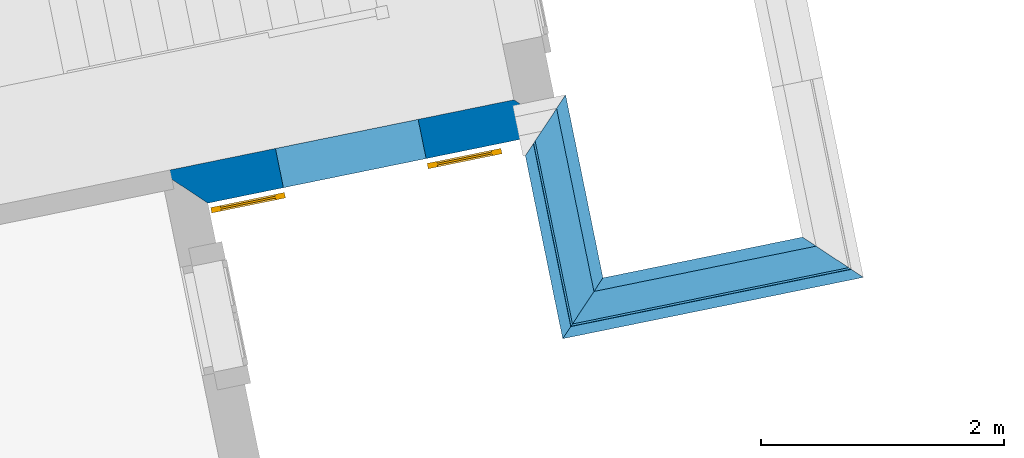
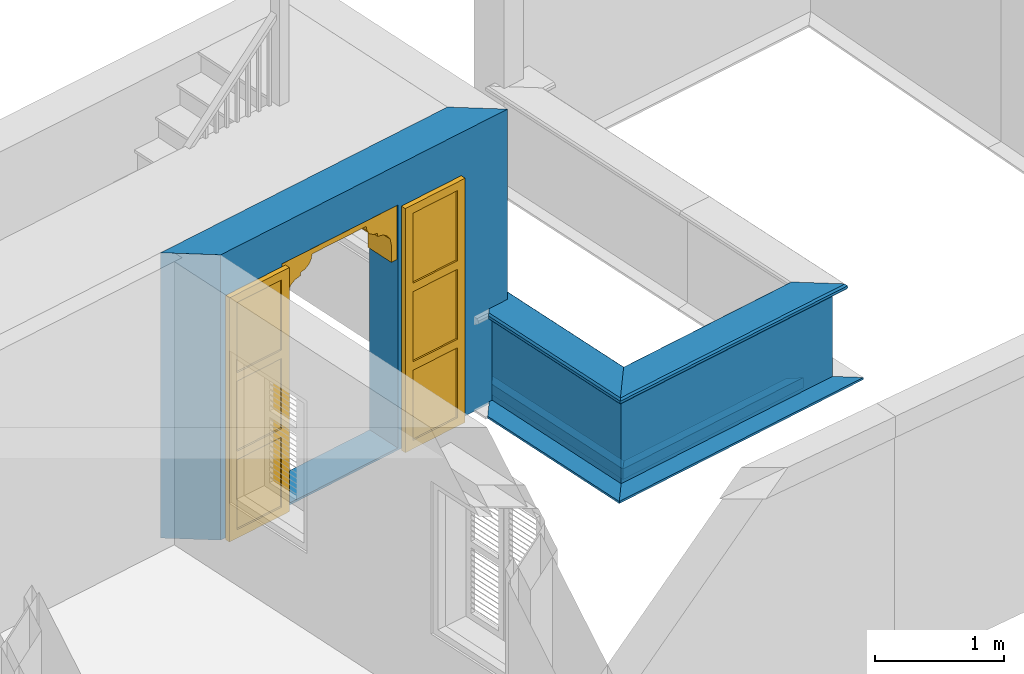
# One storey, part 5 of 7: 7 walls, 1 door, 1 opening.
"""IFC4 building model written with IfcOpenShell, lengths in metres."""

from ifc_helpers import new_model, si_unit, frame, origin, origin_with_axes, place, context, subcontext, project, spatial, polyline, outline, extrude, clip, halfspace, faceted_brep, source, transform, mapped, material, layer, layer_set, layer_usage, material_profile, profile_set, profile_usage, type_object, type_shapes, element, fill, save


model = new_model("IFC4")

# Units and contexts
model_context = context("Model", 3, world=origin_with_axes())
body_context = subcontext(model_context, "Body", "Model", "MODEL_VIEW")
ifc_project = project(units=[si_unit("PLANEANGLEUNIT", "RADIAN"), si_unit("MASSUNIT", "GRAM", prefix="KILO"), si_unit("FORCEUNIT", "NEWTON", prefix="KILO"), si_unit("LENGTHUNIT", "METRE"), si_unit("AREAUNIT", "SQUARE_METRE"), si_unit("VOLUMEUNIT", "CUBIC_METRE")], contexts=[model_context, model_context])

# Site, building, storey
site_placement = place(None, origin_with_axes())
site = spatial("IfcSite", under=ifc_project, at=site_placement, Name="Site plot-7", CompositionType="ELEMENT")
building_placement = place(None, origin_with_axes())
building = spatial("IfcBuilding", under=site, at=building_placement, Name="Building plot-7", CompositionType="ELEMENT")
storey_placement = place(None, frame((0.0, 0.0, 3.0), z_axis=(0.0, 0.0, 1.0), x_axis=(1.0, 0.0, 0.0)))
storey = spatial("IfcBuildingStorey", under=building, at=storey_placement, Name="plot-7 1", CompositionType="ELEMENT", Elevation=3.0)

# Wall, opening, door
ifc_material = material(Name="Masonry")
ifc_layer = layer(ifc_material, 0.33, ventilated=False)
ifc_layer_set = layer_set([ifc_layer], Name="exterior_0.08_0.25")
ifc_layer_usage = layer_usage(ifc_layer_set, "AXIS2", "POSITIVE", -0.25)
wall_type_1 = type_object("IfcWallType", Name="exterior_0.08_0.25", PredefinedType="SOLIDWALL", material=ifc_layer_set)
wall_1_placement = place(storey_placement, frame((-9.09509693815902, 9.59083448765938, 0.0), z_axis=(0.0, 0.0, 1.0), x_axis=(0.979807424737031, 0.199943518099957, 0.0)))
wall_1 = element("IfcWall", 1, at=wall_1_placement, inside=storey, type_object=wall_type_1, material=ifc_layer_usage, Name="exterior", context=body_context, shape_type="SweptSolid", body=[
    extrude(outline(polyline([(-0.0799999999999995, 0.0799999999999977), (0.25, -0.250000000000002), (3.22066143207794, -0.250000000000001), (2.89066143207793, 0.0799999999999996), (-0.0799999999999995, 0.0799999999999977)])), origin_with_axes(), (0.0, 0.0, 1.0), 2.7),
])
opening_placement = place(wall_1_placement, frame((0.885330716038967, 0.0, 0.02)))
opening = element("IfcOpeningElement", 2, at=opening_placement, cuts=wall_1, Name="My Opening", ObjectType="Opening", context=body_context, shape_type="SweptSolid", body=[
    extrude(outline(polyline([(0.0, -0.27), (1.2, -0.269999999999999), (1.2, 1.1), (2.22044604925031e-15, 1.1), (0.0, -0.27)])), origin_with_axes(), (0.0, 0.0, 1.0), 2.3),
])
door_type = type_object("IfcDoorType", Name="arch-1200x2300", OperationType="SINGLE_SWING_LEFT", PredefinedType="NOTDEFINED")
shared_shape = source(origin(), body_context, "Body", "Brep", [
    faceted_brep([(-0.08, -0.02, 0.08), (-0.08, -0.02, 0.0), (-0.54, -0.02, 0.0), (-0.54, -0.02, 0.08), (-0.62, -0.02, 0.0), (-0.62, -0.02, 0.08), (-0.54, -0.035, 0.08), (-0.08, -0.035, 0.08), (0.0, -0.02, 0.08), (0.0, -0.02, 0.0), (-0.08, -0.066, 0.0), (-0.54, -0.066, 0.0), (-0.62, -0.066, 0.0), (-0.62, -0.066, 0.08), (-0.54, -0.02, 0.743333), (-0.62, -0.02, 0.743333), (-0.54, -0.035, 0.743333), (-0.08, -0.035, 0.743333), (-0.08, -0.02, 0.743333), (0.0, -0.02, 0.743333), (0.0, -0.066, 0.08), (0.0, -0.066, 0.0), (-0.54, -0.066, 0.08), (-0.08, -0.066, 0.08), (-0.62, -0.066, 0.743333), (-0.54, -0.02, 0.823333), (-0.62, -0.02, 0.823333), (0.0, -0.066, 0.743333), (0.0, -0.02, 0.823333), (-0.08, -0.02, 0.823333), (-0.08, -0.051, 0.08), (-0.54, -0.051, 0.08), (-0.54, -0.066, 0.743333), (-0.62, -0.066, 0.823333), (-0.54, -0.02, 1.486667), (-0.62, -0.02, 1.486667), (0.0, -0.066, 0.823333), (-0.08, -0.066, 0.743333), (0.0, -0.02, 1.486667), (-0.08, -0.02, 1.486667), (-0.08, -0.051, 0.743333), (-0.54, -0.051, 0.743333), (-0.54, -0.066, 0.823333), (-0.62, -0.066, 1.486667), (-0.54, -0.035, 0.823333), (-0.08, -0.035, 0.823333), (-0.54, -0.035, 1.486667), (-0.54, -0.02, 1.566667), (-0.62, -0.02, 1.566667), (0.0, -0.066, 1.486667), (-0.08, -0.066, 0.823333), (-0.08, -0.035, 1.486667), (0.0, -0.02, 1.566667), (-0.08, -0.02, 1.566667), (-0.54, -0.066, 1.486667), (-0.62, -0.066, 1.566667), (-0.54, -0.02, 2.23), (-0.62, -0.02, 2.23), (0.0, -0.066, 1.566667), (-0.08, -0.066, 1.486667), (0.0, -0.02, 2.23), (-0.08, -0.02, 2.23), (-0.08, -0.051, 0.823333), (-0.54, -0.051, 0.823333), (-0.54, -0.051, 1.486667), (-0.54, -0.066, 1.566667), (-0.62, -0.066, 2.23), (-0.54, -0.035, 1.566667), (-0.08, -0.035, 1.566667), (-0.54, -0.035, 2.23), (-0.54, -0.02, 2.31), (-0.62, -0.02, 2.31), (0.0, -0.066, 2.23), (-0.08, -0.066, 1.566667), (-0.08, -0.051, 1.486667), (-0.08, -0.035, 2.23), (0.0, -0.02, 2.31), (-0.08, -0.02, 2.31), (-0.54, -0.066, 2.23), (-0.62, -0.066, 2.31), (-0.54, -0.066, 2.31), (0.0, -0.066, 2.31), (-0.08, -0.066, 2.23), (-0.08, -0.066, 2.31), (-0.08, -0.051, 1.566667), (-0.54, -0.051, 1.566667), (-0.54, -0.051, 2.23), (-0.08, -0.051, 2.23), (1.74, -0.02, 0.08), (1.74, -0.02, 0.0), (1.28, -0.02, 0.0), (1.28, -0.02, 0.08), (1.82, -0.02, 0.08), (1.82, -0.02, 0.0), (1.28, -0.035, 0.08), (1.74, -0.035, 0.08), (1.2, -0.02, 0.0), (1.2, -0.02, 0.08), (1.74, -0.066, 0.0), (1.28, -0.066, 0.0), (1.82, -0.066, 0.08), (1.82, -0.066, 0.0), (1.82, -0.02, 0.743333), (1.74, -0.02, 0.743333), (1.74, -0.035, 0.743333), (1.28, -0.035, 0.743333), (1.28, -0.02, 0.743333), (1.2, -0.02, 0.743333), (1.2, -0.066, 0.0), (1.2, -0.066, 0.08), (1.28, -0.066, 0.08), (1.74, -0.066, 0.08), (1.82, -0.066, 0.743333), (1.82, -0.02, 0.823333), (1.74, -0.02, 0.823333), (1.2, -0.066, 0.743333), (1.28, -0.02, 0.823333), (1.2, -0.02, 0.823333), (1.74, -0.051, 0.08), (1.28, -0.051, 0.08), (1.74, -0.066, 0.743333), (1.82, -0.066, 0.823333), (1.82, -0.02, 1.486667), (1.74, -0.02, 1.486667), (1.2, -0.066, 0.823333), (1.28, -0.066, 0.743333), (1.28, -0.02, 1.486667), (1.2, -0.02, 1.486667), (1.28, -0.051, 0.743333), (1.74, -0.051, 0.743333), (1.74, -0.066, 0.823333), (1.82, -0.066, 1.486667), (1.28, -0.035, 0.823333), (1.74, -0.035, 0.823333), (1.74, -0.035, 1.486667), (1.82, -0.02, 1.566667), (1.74, -0.02, 1.566667), (1.2, -0.066, 1.486667), (1.28, -0.066, 0.823333), (1.28, -0.035, 1.486667), (1.28, -0.02, 1.566667), (1.2, -0.02, 1.566667), (1.74, -0.066, 1.486667), (1.82, -0.066, 1.566667), (1.82, -0.02, 2.23), (1.74, -0.02, 2.23), (1.2, -0.066, 1.566667), (1.28, -0.066, 1.486667), (1.28, -0.02, 2.23), (1.2, -0.02, 2.23), (1.74, -0.051, 0.823333), (1.28, -0.051, 0.823333), (1.74, -0.051, 1.486667), (1.74, -0.066, 1.566667), (1.82, -0.066, 2.23), (1.28, -0.035, 1.566667), (1.74, -0.035, 1.566667), (1.74, -0.035, 2.23), (1.82, -0.02, 2.31), (1.74, -0.02, 2.31), (1.2, -0.066, 2.23), (1.28, -0.066, 1.566667), (1.28, -0.051, 1.486667), (1.28, -0.035, 2.23), (1.28, -0.02, 2.31), (1.2, -0.02, 2.31), (1.74, -0.066, 2.23), (1.82, -0.066, 2.31), (1.74, -0.066, 2.31), (1.2, -0.066, 2.31), (1.28, -0.066, 2.23), (1.28, -0.066, 2.31), (1.74, -0.051, 1.566667), (1.28, -0.051, 1.566667), (1.74, -0.051, 2.23), (1.28, -0.051, 2.23), (1.2, 0.03, 1.78), (1.2, 0.03, 1.95), (1.14, 0.03, 1.95), (1.14, 0.03, 1.78), (1.14, 0.3, 1.95), (1.14, 0.3, 1.78), (1.2, 0.03, 2.12), (1.129, 0.03, 2.004), (1.2, 0.3, 1.78), (1.2, 0.3, 1.95), (1.129, 0.3, 2.004), (1.099, 0.03, 2.049), (1.2, 0.3, 2.12), (1.099, 0.3, 2.049), (1.054, 0.03, 2.079), (1.2, 0.3, 2.29), (1.2, 0.03, 2.29), (1.054, 0.3, 2.079), (1.0, 0.03, 2.09), (1.0, 0.03, 2.12), (0.954, 0.03, 2.129), (0.88, 0.3, 2.29), (0.88, 0.03, 2.29), (1.0, 0.3, 2.12), (0.954, 0.3, 2.129), (1.0, 0.3, 2.09), (0.915, 0.03, 2.155), (0.889, 0.3, 2.194), (0.88, 0.3, 2.24), (0.88, 0.03, 2.24), (0.889, 0.03, 2.194), (0.915, 0.3, 2.155), (0.06, 0.03, 1.78), (0.06, 0.03, 1.95), (0.0, 0.03, 1.95), (0.0, 0.03, 1.78), (0.06, 0.3, 1.78), (0.06, 0.3, 1.95), (0.071, 0.03, 2.004), (0.0, 0.03, 2.12), (0.0, 0.3, 1.95), (0.0, 0.3, 1.78), (0.071, 0.3, 2.004), (0.101, 0.03, 2.049), (0.0, 0.3, 2.12), (0.101, 0.3, 2.049), (0.146, 0.03, 2.079), (0.0, 0.03, 2.29), (0.0, 0.3, 2.29), (0.146, 0.3, 2.079), (0.2, 0.03, 2.12), (0.2, 0.03, 2.09), (0.246, 0.03, 2.129), (0.32, 0.03, 2.29), (0.32, 0.3, 2.29), (0.246, 0.3, 2.129), (0.2, 0.3, 2.12), (0.2, 0.3, 2.09), (0.285, 0.03, 2.155), (0.32, 0.3, 2.24), (0.311, 0.3, 2.194), (0.311, 0.03, 2.194), (0.32, 0.03, 2.24), (0.285, 0.3, 2.155)], [[[0, 1, 2, 3]], [[4, 5, 3, 2]], [[0, 3, 6, 7]], [[1, 0, 8, 9]], [[2, 1, 10, 11]], [[5, 4, 12, 13]], [[14, 3, 5, 15]], [[4, 2, 11, 12]], [[3, 14, 16, 6]], [[6, 16, 17, 7]], [[18, 0, 7, 17]], [[0, 18, 19, 8]], [[9, 8, 20, 21]], [[1, 9, 21, 10]], [[22, 11, 10, 23]], [[13, 12, 11, 22]], [[15, 5, 13, 24]], [[25, 14, 15, 26]], [[14, 18, 17, 16]], [[8, 19, 27, 20]], [[28, 19, 18, 29]], [[23, 10, 21, 20]], [[22, 23, 30, 31]], [[22, 32, 24, 13]], [[26, 15, 24, 33]], [[29, 18, 14, 25]], [[34, 25, 26, 35]], [[19, 28, 36, 27]], [[20, 27, 37, 23]], [[38, 28, 29, 39]], [[23, 37, 40, 30]], [[41, 31, 30, 40]], [[32, 22, 31, 41]], [[32, 42, 33, 24]], [[35, 26, 33, 43]], [[29, 25, 44, 45]], [[25, 34, 46, 44]], [[47, 34, 35, 48]], [[28, 38, 49, 36]], [[27, 36, 50, 37]], [[39, 29, 45, 51]], [[52, 38, 39, 53]], [[37, 32, 41, 40]], [[37, 50, 42, 32]], [[42, 54, 43, 33]], [[48, 35, 43, 55]], [[44, 46, 51, 45]], [[34, 39, 51, 46]], [[34, 47, 53, 39]], [[56, 47, 48, 57]], [[38, 52, 58, 49]], [[36, 49, 59, 50]], [[60, 52, 53, 61]], [[42, 50, 62, 63]], [[54, 42, 63, 64]], [[54, 65, 55, 43]], [[57, 48, 55, 66]], [[53, 47, 67, 68]], [[47, 56, 69, 67]], [[70, 56, 57, 71]], [[52, 60, 72, 58]], [[49, 58, 73, 59]], [[50, 59, 74, 62]], [[61, 53, 68, 75]], [[76, 60, 61, 77]], [[64, 63, 62, 74]], [[59, 54, 64, 74]], [[65, 54, 59, 73]], [[65, 78, 66, 55]], [[71, 57, 66, 79]], [[67, 69, 75, 68]], [[56, 61, 75, 69]], [[77, 61, 56, 70]], [[70, 71, 79, 80]], [[60, 76, 81, 72]], [[58, 72, 82, 73]], [[76, 77, 83, 81]], [[65, 73, 84, 85]], [[78, 65, 85, 86]], [[78, 80, 79, 66]], [[77, 70, 80, 83]], [[72, 81, 83, 82]], [[73, 82, 87, 84]], [[86, 85, 84, 87]], [[82, 78, 86, 87]], [[82, 83, 80, 78]], [[88, 89, 90, 91]], [[89, 88, 92, 93]], [[94, 95, 88, 91]], [[96, 97, 91, 90]], [[98, 99, 90, 89]], [[100, 101, 93, 92]], [[102, 92, 88, 103]], [[101, 98, 89, 93]], [[95, 104, 103, 88]], [[94, 105, 104, 95]], [[105, 94, 91, 106]], [[97, 107, 106, 91]], [[108, 109, 97, 96]], [[99, 108, 96, 90]], [[110, 99, 98, 111]], [[111, 98, 101, 100]], [[112, 100, 92, 102]], [[113, 102, 103, 114]], [[104, 105, 106, 103]], [[109, 115, 107, 97]], [[116, 106, 107, 117]], [[109, 108, 99, 110]], [[118, 119, 110, 111]], [[100, 112, 120, 111]], [[121, 112, 102, 113]], [[114, 103, 106, 116]], [[122, 113, 114, 123]], [[115, 124, 117, 107]], [[110, 125, 115, 109]], [[126, 116, 117, 127]], [[119, 128, 125, 110]], [[128, 119, 118, 129]], [[129, 118, 111, 120]], [[112, 121, 130, 120]], [[131, 121, 113, 122]], [[132, 133, 114, 116]], [[133, 134, 123, 114]], [[135, 122, 123, 136]], [[124, 137, 127, 117]], [[125, 138, 124, 115]], [[139, 132, 116, 126]], [[140, 126, 127, 141]], [[128, 129, 120, 125]], [[120, 130, 138, 125]], [[121, 131, 142, 130]], [[143, 131, 122, 135]], [[132, 139, 134, 133]], [[134, 139, 126, 123]], [[126, 140, 136, 123]], [[144, 135, 136, 145]], [[137, 146, 141, 127]], [[138, 147, 137, 124]], [[148, 140, 141, 149]], [[150, 151, 138, 130]], [[152, 150, 130, 142]], [[131, 143, 153, 142]], [[154, 143, 135, 144]], [[155, 156, 136, 140]], [[156, 157, 145, 136]], [[158, 144, 145, 159]], [[146, 160, 149, 141]], [[147, 161, 146, 137]], [[151, 162, 147, 138]], [[163, 155, 140, 148]], [[164, 148, 149, 165]], [[162, 151, 150, 152]], [[162, 152, 142, 147]], [[161, 147, 142, 153]], [[143, 154, 166, 153]], [[167, 154, 144, 158]], [[155, 163, 157, 156]], [[157, 163, 148, 145]], [[159, 145, 148, 164]], [[168, 167, 158, 159]], [[160, 169, 165, 149]], [[161, 170, 160, 146]], [[169, 171, 164, 165]], [[172, 173, 161, 153]], [[174, 172, 153, 166]], [[154, 167, 168, 166]], [[171, 168, 159, 164]], [[170, 171, 169, 160]], [[173, 175, 170, 161]], [[175, 173, 172, 174]], [[175, 174, 166, 170]], [[166, 168, 171, 170]], [[176, 177, 178, 179]], [[180, 181, 179, 178]], [[177, 182, 183, 178]], [[177, 176, 184, 185]], [[181, 184, 176, 179]], [[181, 180, 185, 184]], [[186, 180, 178, 183]], [[182, 187, 183]], [[182, 177, 185, 188]], [[180, 186, 188, 185]], [[189, 186, 183, 187]], [[182, 190, 187]], [[188, 191, 192, 182]], [[188, 186, 189]], [[193, 189, 187, 190]], [[194, 190, 182, 195]], [[182, 192, 196, 195]], [[192, 191, 197, 198]], [[199, 200, 191, 188]], [[188, 189, 193]], [[201, 193, 190, 194]], [[199, 201, 194, 195]], [[200, 199, 195, 196]], [[192, 202, 196]], [[191, 203, 204, 197]], [[192, 198, 205, 206]], [[207, 191, 200]], [[199, 188, 193, 201]], [[207, 200, 196, 202]], [[192, 206, 202]], [[204, 203, 206, 205]], [[203, 191, 207]], [[203, 207, 202, 206]], [[208, 209, 210, 211]], [[209, 208, 212, 213]], [[209, 214, 215, 210]], [[211, 210, 216, 217]], [[208, 211, 217, 212]], [[217, 216, 213, 212]], [[214, 209, 213, 218]], [[214, 219, 215]], [[220, 216, 210, 215]], [[216, 220, 218, 213]], [[219, 214, 218, 221]], [[219, 222, 215]], [[215, 223, 224, 220]], [[221, 218, 220]], [[222, 219, 221, 225]], [[226, 215, 222, 227]], [[226, 228, 223, 215]], [[229, 230, 224, 223]], [[220, 224, 231, 232]], [[225, 221, 220]], [[227, 222, 225, 233]], [[226, 227, 233, 232]], [[228, 226, 232, 231]], [[228, 234, 223]], [[230, 235, 236, 224]], [[237, 238, 229, 223]], [[231, 224, 239]], [[233, 225, 220, 232]], [[234, 228, 231, 239]], [[234, 237, 223]], [[238, 237, 236, 235]], [[239, 224, 236]], [[237, 234, 239, 236]], [[238, 235, 204, 205]], [[235, 230, 197, 204]], [[229, 238, 205, 198]], [[230, 229, 198, 197]]]),
])
type_shapes(door_type, [shared_shape])
door_placement = place(storey_placement, frame((-8.1736585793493, 9.50330262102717, 0.02), z_axis=(0.0, 0.0, 1.0), x_axis=(1.17576890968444, 0.23993222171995, 0.0)))
door = element("IfcDoor", 3, at=door_placement, inside=storey, type_object=door_type, Name="circulation sahn door", OverallHeight=2.3, OverallWidth=1.2, context=body_context, shape_type="MappedRepresentation", body=[
    mapped(shared_shape, transform((0.0, 0.0, 0.0), scale=1.0)),
])
fill(opening, door)

# Walls
ifc_material_profile_1 = material_profile(None, outline(polyline([(0.25, 0.0), (0.25, 0.795), (0.09, 0.795), (0.09, 0.02), (-0.08, 0.02), (-0.08, 0.0), (0.25, 0.0)])))
ifc_profile_set_1 = profile_set([ifc_material_profile_1])
ifc_profile_usage_1 = profile_usage(ifc_profile_set_1)
wall_type_2 = type_object("IfcWallType", Name="parapet internal_0", PredefinedType="PARAPET", material=ifc_profile_set_1)
wall_2_placement = place(storey_placement, frame((-6.79457828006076, 8.17341504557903, 0.0), z_axis=(0.979807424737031, 0.199943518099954, 0.0), x_axis=(-0.199943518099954, 0.979807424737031, 0.0)))
element("IfcWall", 4, at=wall_2_placement, inside=storey, type_object=wall_type_2, material=ifc_profile_usage_1, Name="parapet internal_0", context=body_context, shape_type="Clipping", body=[
    clip(clip(extrude(outline(polyline([(0.25, 0.0), (0.25, 0.795), (0.09, 0.795), (0.09, 0.02), (-0.08, 0.02), (-0.08, 0.0), (0.25, 0.0)])), origin_with_axes(), (0.0, 0.0, 1.0), 4.36807610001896), halfspace(frame((0.0, 0.0, 3.36807610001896), z_axis=(-0.707106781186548, 0.0, -0.707106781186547), x_axis=(0.0, 1.0, 0.0)), True)), halfspace(frame((0.0, 0.0, 1.0), z_axis=(0.707106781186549, 0.0, -0.707106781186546), x_axis=(0.0, 1.0, 0.0)), False)),
])
ifc_profile_usage_2 = profile_usage(ifc_profile_set_1)
wall_3_placement = place(storey_placement, frame((-6.32238183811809, 10.8608661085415, 0.0), z_axis=(0.199943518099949, -0.979807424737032, 0.0), x_axis=(0.979807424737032, 0.199943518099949, 0.0)))
element("IfcWall", 5, at=wall_3_placement, inside=storey, type_object=wall_type_2, material=ifc_profile_usage_2, Name="parapet internal_0", context=body_context, shape_type="Clipping", body=[
    clip(clip(extrude(outline(polyline([(0.25, 0.0), (0.25, 0.795), (0.09, 0.795), (0.09, 0.02), (-0.08, 0.02), (-0.08, 0.0), (0.25, 0.0)])), origin_with_axes(), (0.0, 0.0, 1.0), 3.53877188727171), halfspace(frame((0.0, 0.0, 2.53877188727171), z_axis=(-0.707106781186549, 0.0, -0.707106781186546), x_axis=(0.0, 1.0, 0.0)), True)), halfspace(frame((0.0, 0.0, 1.0), z_axis=(-0.707106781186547, 0.0, -0.707106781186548), x_axis=(0.0, 1.0, 0.0)), False)),
])
ifc_material_profile_2 = material_profile(None, outline(polyline([(0.265, 0.795), (0.268, 0.807), (0.274, 0.816), (0.283, 0.822), (0.295, 0.825), (0.295, 0.84), (0.305, 0.84), (0.317, 0.842), (0.326, 0.849), (0.333, 0.858), (0.335, 0.87), (0.333, 0.882), (0.326, 0.891), (0.317, 0.898), (0.305, 0.9), (0.035, 0.9), (0.023, 0.898), (0.014, 0.891), (0.007, 0.882), (0.005, 0.87), (0.007, 0.858), (0.014, 0.849), (0.023, 0.842), (0.035, 0.84), (0.045, 0.84), (0.045, 0.825), (0.057, 0.822), (0.066, 0.816), (0.072, 0.807), (0.075, 0.795), (0.265, 0.795)])))
ifc_profile_set_2 = profile_set([ifc_material_profile_2])
ifc_profile_usage_3 = profile_usage(ifc_profile_set_2)
wall_type_3 = type_object("IfcWallType", Name="parapet internal_1", PredefinedType="PARAPET", material=ifc_profile_set_2)
wall_4_placement = place(storey_placement, frame((-6.79457828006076, 8.17341504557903, 0.0), z_axis=(0.979807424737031, 0.199943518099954, 0.0), x_axis=(-0.199943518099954, 0.979807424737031, 0.0)))
element("IfcWall", 6, at=wall_4_placement, inside=storey, type_object=wall_type_3, material=ifc_profile_usage_3, Name="parapet internal_1", context=body_context, shape_type="Clipping", body=[
    clip(clip(extrude(outline(polyline([(0.265, 0.795), (0.268, 0.807), (0.274, 0.816), (0.283, 0.822), (0.295, 0.825), (0.295, 0.84), (0.305, 0.84), (0.317, 0.842), (0.326, 0.849), (0.333, 0.858), (0.335, 0.87), (0.333, 0.882), (0.326, 0.891), (0.317, 0.898), (0.305, 0.9), (0.035, 0.9), (0.023, 0.898), (0.014, 0.891), (0.007, 0.882), (0.005, 0.87), (0.007, 0.858), (0.014, 0.849), (0.023, 0.842), (0.035, 0.84), (0.045, 0.84), (0.045, 0.825), (0.057, 0.822), (0.066, 0.816), (0.072, 0.807), (0.075, 0.795), (0.265, 0.795)])), origin_with_axes(), (0.0, 0.0, 1.0), 4.36807610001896), halfspace(frame((0.0, 0.0, 3.36807610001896), z_axis=(-0.707106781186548, 0.0, -0.707106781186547), x_axis=(0.0, 1.0, 0.0)), True)), halfspace(frame((0.0, 0.0, 1.0), z_axis=(0.707106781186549, 0.0, -0.707106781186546), x_axis=(0.0, 1.0, 0.0)), False)),
])
ifc_profile_usage_4 = profile_usage(ifc_profile_set_2)
wall_5_placement = place(storey_placement, frame((-6.32238183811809, 10.8608661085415, 0.0), z_axis=(0.199943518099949, -0.979807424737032, 0.0), x_axis=(0.979807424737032, 0.199943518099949, 0.0)))
element("IfcWall", 7, at=wall_5_placement, inside=storey, type_object=wall_type_3, material=ifc_profile_usage_4, Name="parapet internal_1", context=body_context, shape_type="Clipping", body=[
    clip(clip(extrude(outline(polyline([(0.265, 0.795), (0.268, 0.807), (0.274, 0.816), (0.283, 0.822), (0.295, 0.825), (0.295, 0.84), (0.305, 0.84), (0.317, 0.842), (0.326, 0.849), (0.333, 0.858), (0.335, 0.87), (0.333, 0.882), (0.326, 0.891), (0.317, 0.898), (0.305, 0.9), (0.035, 0.9), (0.023, 0.898), (0.014, 0.891), (0.007, 0.882), (0.005, 0.87), (0.007, 0.858), (0.014, 0.849), (0.023, 0.842), (0.035, 0.84), (0.045, 0.84), (0.045, 0.825), (0.057, 0.822), (0.066, 0.816), (0.072, 0.807), (0.075, 0.795), (0.265, 0.795)])), origin_with_axes(), (0.0, 0.0, 1.0), 3.53877188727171), halfspace(frame((0.0, 0.0, 2.53877188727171), z_axis=(-0.707106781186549, 0.0, -0.707106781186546), x_axis=(0.0, 1.0, 0.0)), True)), halfspace(frame((0.0, 0.0, 1.0), z_axis=(-0.707106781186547, 0.0, -0.707106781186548), x_axis=(0.0, 1.0, 0.0)), False)),
])
ifc_material_profile_3 = material_profile(None, outline(polyline([(0.25, -0.1), (0.265, -0.1), (0.265, -0.085), (0.278, -0.084), (0.289, -0.081), (0.301, -0.074), (0.309, -0.065), (0.315, -0.055), (0.324, -0.044), (0.334, -0.038), (0.345, -0.035), (0.345, -0.015), (0.25, 0.0), (0.25, -0.1)])))
ifc_profile_set_3 = profile_set([ifc_material_profile_3])
ifc_profile_usage_5 = profile_usage(ifc_profile_set_3)
wall_type_4 = type_object("IfcWallType", Name="parapet internal_2", PredefinedType="PARAPET", material=ifc_profile_set_3)
wall_6_placement = place(storey_placement, frame((-6.79457828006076, 8.17341504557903, 0.0), z_axis=(0.979807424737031, 0.199943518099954, 0.0), x_axis=(-0.199943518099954, 0.979807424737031, 0.0)))
element("IfcWall", 8, at=wall_6_placement, inside=storey, type_object=wall_type_4, material=ifc_profile_usage_5, Name="parapet internal_2", context=body_context, shape_type="Clipping", body=[
    clip(clip(extrude(outline(polyline([(0.25, -0.1), (0.265, -0.1), (0.265, -0.085), (0.278, -0.084), (0.289, -0.081), (0.301, -0.074), (0.309, -0.065), (0.315, -0.055), (0.324, -0.044), (0.334, -0.038), (0.345, -0.035), (0.345, -0.015), (0.25, 0.0), (0.25, -0.1)])), origin_with_axes(), (0.0, 0.0, 1.0), 4.36807610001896), halfspace(frame((0.0, 0.0, 3.36807610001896), z_axis=(-0.707106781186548, 0.0, -0.707106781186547), x_axis=(0.0, 1.0, 0.0)), True)), halfspace(frame((0.0, 0.0, 1.0), z_axis=(0.707106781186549, 0.0, -0.707106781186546), x_axis=(0.0, 1.0, 0.0)), False)),
])
ifc_profile_usage_6 = profile_usage(ifc_profile_set_3)
wall_7_placement = place(storey_placement, frame((-6.32238183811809, 10.8608661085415, 0.0), z_axis=(0.199943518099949, -0.979807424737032, 0.0), x_axis=(0.979807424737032, 0.199943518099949, 0.0)))
element("IfcWall", 9, at=wall_7_placement, inside=storey, type_object=wall_type_4, material=ifc_profile_usage_6, Name="parapet internal_2", context=body_context, shape_type="Clipping", body=[
    clip(clip(extrude(outline(polyline([(0.25, -0.1), (0.265, -0.1), (0.265, -0.085), (0.278, -0.084), (0.289, -0.081), (0.301, -0.074), (0.309, -0.065), (0.315, -0.055), (0.324, -0.044), (0.334, -0.038), (0.345, -0.035), (0.345, -0.015), (0.25, 0.0), (0.25, -0.1)])), origin_with_axes(), (0.0, 0.0, 1.0), 3.53877188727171), halfspace(frame((0.0, 0.0, 2.53877188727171), z_axis=(-0.707106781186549, 0.0, -0.707106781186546), x_axis=(0.0, 1.0, 0.0)), True)), halfspace(frame((0.0, 0.0, 1.0), z_axis=(-0.707106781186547, 0.0, -0.707106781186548), x_axis=(0.0, 1.0, 0.0)), False)),
])

save(model, "model.ifc")
